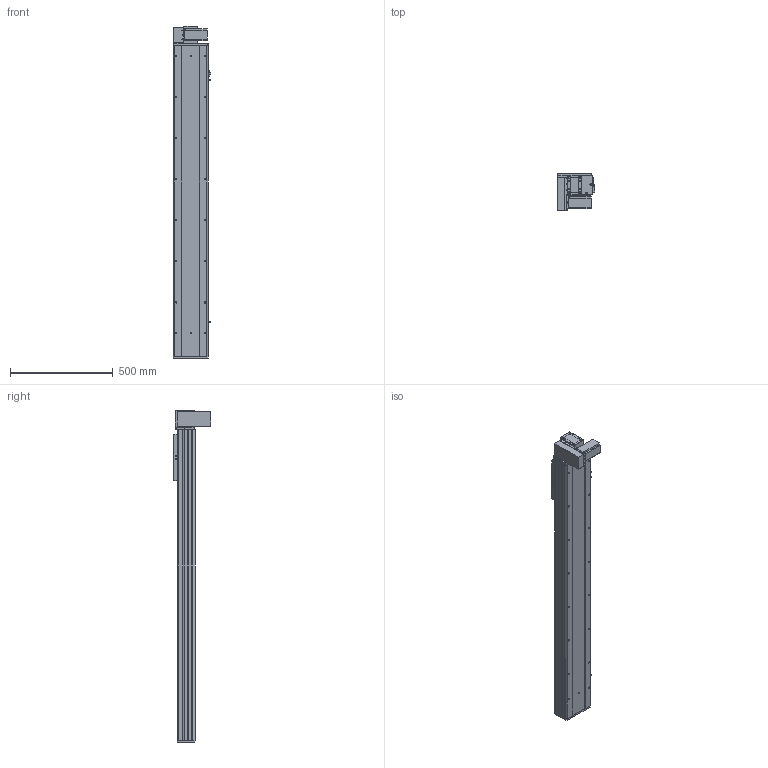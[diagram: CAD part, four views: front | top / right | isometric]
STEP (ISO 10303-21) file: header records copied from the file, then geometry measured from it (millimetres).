
FILE_DESCRIPTION (( 'STEP AP203' ), '1' );
FILE_NAME ('Y170CB-D105-S1200-BM-P400W.STEP', '2020-02-20T06:40:31', ( '微软用户' ), ( '微软中国' ), 'SwSTEP 2.0', 'SolidWorks 2017', '' );
FILE_SCHEMA (( 'CONFIG_CONTROL_DESIGN' ));
Length unit declared in the file: millimetre
Products named in the file (18): 0C--雄赽釱俋欶-170; 0B-萇儂楊擘啣; 70CB-詩湍--; san松下电机400不带刹车----; Y100-135俋离換覜ん--; 70CB-掛极-; Y170CB-陔俋离換覜結え---; --70CB --喘謫眊楊擘啣-; Y1埴倛裔; 70CB-耜裔啣-; 17B-耜蚾蟀諉啣----; 70C--詩湍揤踡え-; Y170CB-D105-S1200-BM-P400W; 00B-俋欶BM--163; 70CB--耜裔; 70B喘謫眊----; 70C-雄赽釱-奻-; B-源倛裔啣
Assembly tree (21 placements, depth 2):
  Y170CB-D105-S1200-BM-P400W
    B-源倛裔啣
    0B-萇儂楊擘啣
    san松下电机400不带刹车----
    70CB-掛极-
    --70CB --喘謫眊楊擘啣-
    70CB-耜裔啣-  x2
    70C--詩湍揤踡え-  x2
    70CB--耜裔
    70C-雄赽釱-奻-
    0C--雄赽釱俋欶-170
    70CB-詩湍--
    Y100-135俋离換覜ん--  x3
    Y170CB-陔俋离換覜結え---
    Y1埴倛裔
    17B-耜蚾蟀諉啣----
    00B-俋欶BM--163
    70B喘謫眊----
Bounding box: 183.5 x 184 x 1616 mm (x, y, z)
Volume: 7325845.3 mm3; surface area: 2618575.6 mm2
Topology: 21 solids, 21 shells, 1015 faces, 2717 edges, 1802 vertices
Faces by surface type: cylinder 529, plane 462, cone 24
Entity records: 32328 total; most frequent: CARTESIAN_POINT 5916, DIRECTION 5258, ORIENTED_EDGE 4916, EDGE_CURVE 2458, AXIS2_PLACEMENT_3D 1928, VERTEX_POINT 1632, LINE 1402, VECTOR 1402
